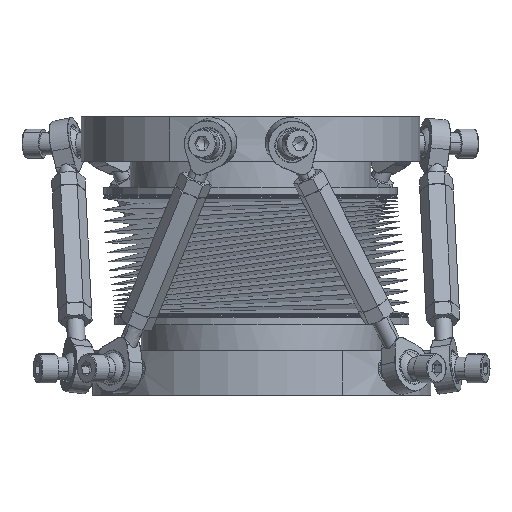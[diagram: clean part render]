
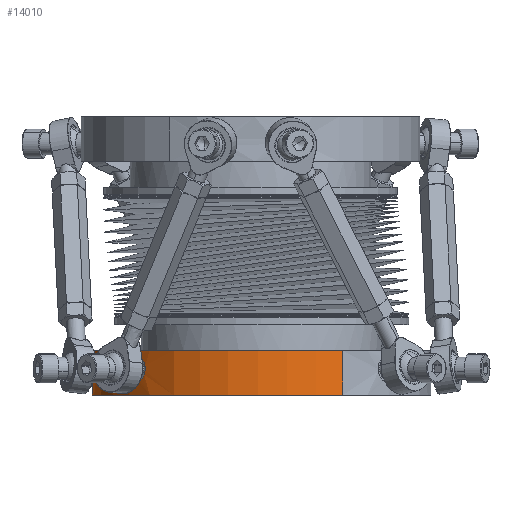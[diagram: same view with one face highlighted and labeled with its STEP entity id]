
A CAD part, left-side view. The second image highlights one B-rep face of the part: STEP entity #14010.
In plain terms, the highlighted cylindrical face has radius 76 mm (diameter 152 mm), a partial arc.
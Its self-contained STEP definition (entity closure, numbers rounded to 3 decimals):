
#12238=AXIS2_PLACEMENT_3D('Circle Axis2P3D',#12236,#12237,$) ;
#13461=AXIS2_PLACEMENT_3D('Circle Axis2P3D',#13459,#13460,$) ;
#13682=AXIS2_PLACEMENT_3D('Cylinder Axis2P3D',#13679,#13680,#13681) ;
#12231=CARTESIAN_POINT('Vertex',(-66.696,-36.436,20.)) ;
#12233=CARTESIAN_POINT('Vertex',(66.696,36.436,20.)) ;
#12236=CARTESIAN_POINT('Axis2P3D Location',(0.,0.,20.)) ;
#13459=CARTESIAN_POINT('Axis2P3D Location',(0.,0.,0.)) ;
#13463=CARTESIAN_POINT('Vertex',(66.696,36.436,0.)) ;
#13465=CARTESIAN_POINT('Vertex',(-66.696,-36.436,0.)) ;
#13679=CARTESIAN_POINT('Axis2P3D Location',(0.,0.,10.)) ;
#13684=CARTESIAN_POINT('Line Origine',(-66.696,-36.436,10.)) ;
#13689=CARTESIAN_POINT('Line Origine',(66.696,36.436,10.)) ;
#13927=CARTESIAN_POINT('Control Point',(-52.955,54.514,17.265)) ;
#13928=CARTESIAN_POINT('Control Point',(-53.36,54.12,16.957)) ;
#13929=CARTESIAN_POINT('Control Point',(-53.732,53.752,16.574)) ;
#13930=CARTESIAN_POINT('Control Point',(-54.062,53.419,16.122)) ;
#13931=CARTESIAN_POINT('Control Point',(-54.905,52.557,14.598)) ;
#13932=CARTESIAN_POINT('Control Point',(-55.274,52.16,12.678)) ;
#13933=CARTESIAN_POINT('Control Point',(-55.275,52.16,11.329)) ;
#13934=CARTESIAN_POINT('Control Point',(-54.907,52.555,9.409)) ;
#13935=CARTESIAN_POINT('Control Point',(-54.065,53.416,7.883)) ;
#13936=CARTESIAN_POINT('Control Point',(-53.736,53.748,7.431)) ;
#13937=CARTESIAN_POINT('Control Point',(-52.67,54.804,6.329)) ;
#13938=CARTESIAN_POINT('Control Point',(-51.331,56.066,5.847)) ;
#13939=CARTESIAN_POINT('Control Point',(-50.398,56.906,5.846)) ;
#13940=CARTESIAN_POINT('Control Point',(-49.49,57.688,6.159)) ;
#13941=CARTESIAN_POINT('Control Point',(-48.68,58.363,6.735)) ;
#13942=CARTESIAN_POINT('Vertex',(-52.955,54.514,17.265)) ;
#13944=CARTESIAN_POINT('Vertex',(-48.68,58.363,6.735)) ;
#13948=CARTESIAN_POINT('Control Point',(-48.68,58.363,6.735)) ;
#13949=CARTESIAN_POINT('Control Point',(-48.246,58.725,7.043)) ;
#13950=CARTESIAN_POINT('Control Point',(-47.841,59.056,7.426)) ;
#13951=CARTESIAN_POINT('Control Point',(-47.475,59.349,7.878)) ;
#13952=CARTESIAN_POINT('Control Point',(-46.53,60.098,9.402)) ;
#13953=CARTESIAN_POINT('Control Point',(-46.097,60.424,11.322)) ;
#13954=CARTESIAN_POINT('Control Point',(-46.096,60.424,12.671)) ;
#13955=CARTESIAN_POINT('Control Point',(-46.527,60.1,14.591)) ;
#13956=CARTESIAN_POINT('Control Point',(-47.472,59.352,16.117)) ;
#13957=CARTESIAN_POINT('Control Point',(-47.837,59.059,16.569)) ;
#13958=CARTESIAN_POINT('Control Point',(-48.998,58.11,17.671)) ;
#13959=CARTESIAN_POINT('Control Point',(-50.393,56.911,18.153)) ;
#13960=CARTESIAN_POINT('Control Point',(-51.326,56.071,18.154)) ;
#13961=CARTESIAN_POINT('Control Point',(-52.199,55.249,17.841)) ;
#13962=CARTESIAN_POINT('Control Point',(-52.955,54.514,17.265)) ;
#13969=CARTESIAN_POINT('Control Point',(-26.204,71.34,17.265)) ;
#13970=CARTESIAN_POINT('Control Point',(-26.734,71.145,16.957)) ;
#13971=CARTESIAN_POINT('Control Point',(-27.224,70.96,16.574)) ;
#13972=CARTESIAN_POINT('Control Point',(-27.66,70.79,16.122)) ;
#13973=CARTESIAN_POINT('Control Point',(-28.781,70.345,14.598)) ;
#13974=CARTESIAN_POINT('Control Point',(-29.28,70.133,12.678)) ;
#13975=CARTESIAN_POINT('Control Point',(-29.281,70.133,11.329)) ;
#13976=CARTESIAN_POINT('Control Point',(-28.784,70.344,9.409)) ;
#13977=CARTESIAN_POINT('Control Point',(-27.665,70.788,7.883)) ;
#13978=CARTESIAN_POINT('Control Point',(-27.229,70.958,7.431)) ;
#13979=CARTESIAN_POINT('Control Point',(-25.826,71.489,6.329)) ;
#13980=CARTESIAN_POINT('Control Point',(-24.09,72.097,5.847)) ;
#13981=CARTESIAN_POINT('Control Point',(-22.896,72.485,5.846)) ;
#13982=CARTESIAN_POINT('Control Point',(-21.747,72.83,6.159)) ;
#13983=CARTESIAN_POINT('Control Point',(-20.733,73.117,6.735)) ;
#13984=CARTESIAN_POINT('Vertex',(-26.204,71.34,17.265)) ;
#13986=CARTESIAN_POINT('Vertex',(-20.733,73.117,6.735)) ;
#13990=CARTESIAN_POINT('Control Point',(-20.733,73.117,6.735)) ;
#13991=CARTESIAN_POINT('Control Point',(-20.19,73.271,7.043)) ;
#13992=CARTESIAN_POINT('Control Point',(-19.685,73.409,7.426)) ;
#13993=CARTESIAN_POINT('Control Point',(-19.231,73.528,7.878)) ;
#13994=CARTESIAN_POINT('Control Point',(-18.063,73.827,9.402)) ;
#13995=CARTESIAN_POINT('Control Point',(-17.535,73.949,11.322)) ;
#13996=CARTESIAN_POINT('Control Point',(-17.534,73.949,12.671)) ;
#13997=CARTESIAN_POINT('Control Point',(-18.06,73.828,14.591)) ;
#13998=CARTESIAN_POINT('Control Point',(-19.227,73.53,16.117)) ;
#13999=CARTESIAN_POINT('Control Point',(-19.68,73.411,16.569)) ;
#14000=CARTESIAN_POINT('Control Point',(-21.127,73.016,17.671)) ;
#14001=CARTESIAN_POINT('Control Point',(-22.889,72.487,18.153)) ;
#14002=CARTESIAN_POINT('Control Point',(-24.083,72.099,18.154)) ;
#14003=CARTESIAN_POINT('Control Point',(-25.214,71.703,17.841)) ;
#14004=CARTESIAN_POINT('Control Point',(-26.204,71.34,17.265)) ;
#12237=DIRECTION('Axis2P3D Direction',(0.,0.,1.)) ;
#13460=DIRECTION('Axis2P3D Direction',(0.,0.,1.)) ;
#13680=DIRECTION('Axis2P3D Direction',(0.,0.,1.)) ;
#13681=DIRECTION('Axis2P3D XDirection',(0.878,0.479,0.)) ;
#13685=DIRECTION('Vector Direction',(0.,0.,1.)) ;
#13690=DIRECTION('Vector Direction',(0.,0.,1.)) ;
#13686=VECTOR('Line Direction',#13685,1.) ;
#13691=VECTOR('Line Direction',#13690,1.) ;
#13921=ORIENTED_EDGE('',*,*,#12240,.F.) ;
#13922=ORIENTED_EDGE('',*,*,#13693,.T.) ;
#13923=ORIENTED_EDGE('',*,*,#13467,.T.) ;
#13924=ORIENTED_EDGE('',*,*,#13688,.F.) ;
#13965=ORIENTED_EDGE('',*,*,#13946,.T.) ;
#13966=ORIENTED_EDGE('',*,*,#13963,.T.) ;
#14007=ORIENTED_EDGE('',*,*,#13988,.T.) ;
#14008=ORIENTED_EDGE('',*,*,#14005,.T.) ;
#13967=FACE_BOUND('',#13964,.T.) ;
#14009=FACE_BOUND('',#14006,.T.) ;
#14010=ADVANCED_FACE('PA100HEXBU_64723.1\\PA100HEXBU_BU.1',(#13925,#13967,#14009),#13683,.T.) ;
#13926=B_SPLINE_CURVE_WITH_KNOTS('',5,(#13927,#13928,#13929,#13930,#13931,#13932,#13933,#13934,#13935,#13936,#13937,#13938,#13939,#13940,#13941),.UNSPECIFIED.,.F.,.U.,(6,3,3,3,6),(0.,4.548,13.623,18.17,26.667),.UNSPECIFIED.) ;
#13947=B_SPLINE_CURVE_WITH_KNOTS('',5,(#13948,#13949,#13950,#13951,#13952,#13953,#13954,#13955,#13956,#13957,#13958,#13959,#13960,#13961,#13962),.UNSPECIFIED.,.F.,.U.,(6,3,3,3,6),(0.,4.548,13.623,18.17,26.667),.UNSPECIFIED.) ;
#13968=B_SPLINE_CURVE_WITH_KNOTS('',5,(#13969,#13970,#13971,#13972,#13973,#13974,#13975,#13976,#13977,#13978,#13979,#13980,#13981,#13982,#13983),.UNSPECIFIED.,.F.,.U.,(6,3,3,3,6),(0.,4.548,13.623,18.17,26.667),.UNSPECIFIED.) ;
#13989=B_SPLINE_CURVE_WITH_KNOTS('',5,(#13990,#13991,#13992,#13993,#13994,#13995,#13996,#13997,#13998,#13999,#14000,#14001,#14002,#14003,#14004),.UNSPECIFIED.,.F.,.U.,(6,3,3,3,6),(0.,4.548,13.623,18.17,26.667),.UNSPECIFIED.) ;
#12239=CIRCLE('generated circle',#12238,76.) ;
#13462=CIRCLE('generated circle',#13461,76.) ;
#13683=CYLINDRICAL_SURFACE('generated cylinder',#13682,76.) ;
#12240=EDGE_CURVE('',#12234,#12232,#12239,.T.) ;
#13467=EDGE_CURVE('',#13464,#13466,#13462,.T.) ;
#13688=EDGE_CURVE('',#12232,#13466,#13687,.F.) ;
#13693=EDGE_CURVE('',#12234,#13464,#13692,.F.) ;
#13946=EDGE_CURVE('',#13943,#13945,#13926,.T.) ;
#13963=EDGE_CURVE('',#13945,#13943,#13947,.T.) ;
#13988=EDGE_CURVE('',#13985,#13987,#13968,.T.) ;
#14005=EDGE_CURVE('',#13987,#13985,#13989,.T.) ;
#13920=EDGE_LOOP('',(#13921,#13922,#13923,#13924)) ;
#13964=EDGE_LOOP('',(#13965,#13966)) ;
#14006=EDGE_LOOP('',(#14007,#14008)) ;
#13925=FACE_OUTER_BOUND('',#13920,.T.) ;
#13687=LINE('Line',#13684,#13686) ;
#13692=LINE('Line',#13689,#13691) ;
#12232=VERTEX_POINT('',#12231) ;
#12234=VERTEX_POINT('',#12233) ;
#13464=VERTEX_POINT('',#13463) ;
#13466=VERTEX_POINT('',#13465) ;
#13943=VERTEX_POINT('',#13942) ;
#13945=VERTEX_POINT('',#13944) ;
#13985=VERTEX_POINT('',#13984) ;
#13987=VERTEX_POINT('',#13986) ;
